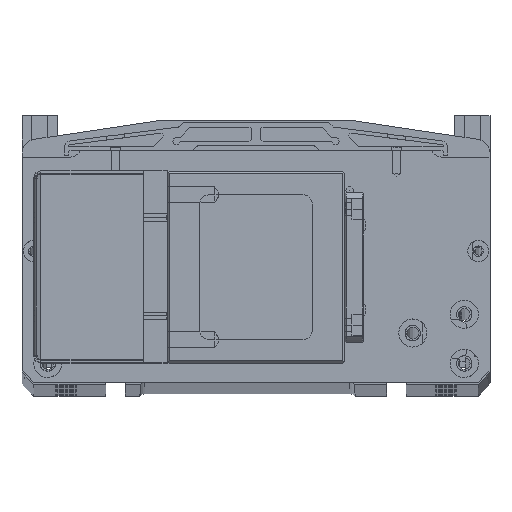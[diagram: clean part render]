
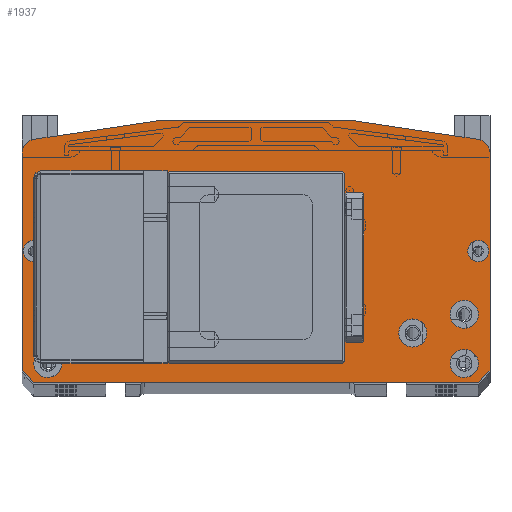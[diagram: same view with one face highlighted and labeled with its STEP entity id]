
A CAD part, top view. The second image highlights one B-rep face of the part: STEP entity #1937.
In plain terms, the highlighted planar face has unit normal (0, 0, 1).
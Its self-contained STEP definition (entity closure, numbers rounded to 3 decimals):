
#1937=ADVANCED_FACE('',(#6673,#6674,#6675,#6676,#6677,#6678,#6679,#6680,
#6681,#6682,#6683,#6684,#6685),#3068,.F.);
#3068=PLANE('',#20916);
#3555=LINE('',#28843,#5114);
#3556=LINE('',#28846,#5115);
#3557=LINE('',#28848,#5116);
#3558=LINE('',#28850,#5117);
#3559=LINE('',#28854,#5118);
#3560=LINE('',#28856,#5119);
#3561=LINE('',#28858,#5120);
#3562=LINE('',#28862,#5121);
#3563=LINE('',#28863,#5122);
#3564=LINE('',#28866,#5123);
#3565=LINE('',#28868,#5124);
#3566=LINE('',#28870,#5125);
#3567=LINE('',#28871,#5126);
#3568=LINE('',#28874,#5127);
#3569=LINE('',#28876,#5128);
#3570=LINE('',#28878,#5129);
#5114=VECTOR('',#23045,1.);
#5115=VECTOR('',#23046,1.);
#5116=VECTOR('',#23047,1.);
#5117=VECTOR('',#23048,1.);
#5118=VECTOR('',#23051,1.);
#5119=VECTOR('',#23052,1.);
#5120=VECTOR('',#23053,1.);
#5121=VECTOR('',#23056,1.);
#5122=VECTOR('',#23057,1.);
#5123=VECTOR('',#23058,1.);
#5124=VECTOR('',#23059,1.);
#5125=VECTOR('',#23060,1.);
#5126=VECTOR('',#23061,1.);
#5127=VECTOR('',#23062,1.);
#5128=VECTOR('',#23063,1.);
#5129=VECTOR('',#23064,1.);
#6673=FACE_BOUND('',#7487,.T.);
#6674=FACE_BOUND('',#7488,.T.);
#6675=FACE_BOUND('',#7489,.T.);
#6676=FACE_BOUND('',#7490,.T.);
#6677=FACE_BOUND('',#7491,.T.);
#6678=FACE_BOUND('',#7492,.T.);
#6679=FACE_BOUND('',#7493,.T.);
#6680=FACE_BOUND('',#7494,.T.);
#6681=FACE_BOUND('',#7495,.T.);
#6682=FACE_BOUND('',#7496,.T.);
#6683=FACE_BOUND('',#7497,.T.);
#6684=FACE_BOUND('',#7498,.T.);
#6685=FACE_BOUND('',#7499,.T.);
#7487=EDGE_LOOP('',(#9078));
#7488=EDGE_LOOP('',(#9079));
#7489=EDGE_LOOP('',(#9080));
#7490=EDGE_LOOP('',(#9081));
#7491=EDGE_LOOP('',(#9082));
#7492=EDGE_LOOP('',(#9083));
#7493=EDGE_LOOP('',(#9084));
#7494=EDGE_LOOP('',(#9085));
#7495=EDGE_LOOP('',(#9086));
#7496=EDGE_LOOP('',(#9087));
#7497=EDGE_LOOP('',(#9088,#9089,#9090,#9091,#9092,#9093,#9094,#9095,#9096,
#9097));
#7498=EDGE_LOOP('',(#9098,#9099,#9100,#9101));
#7499=EDGE_LOOP('',(#9102,#9103,#9104,#9105));
#9078=ORIENTED_EDGE('',*,*,#16976,.T.);
#9079=ORIENTED_EDGE('',*,*,#16977,.T.);
#9080=ORIENTED_EDGE('',*,*,#16978,.T.);
#9081=ORIENTED_EDGE('',*,*,#16979,.T.);
#9082=ORIENTED_EDGE('',*,*,#16980,.T.);
#9083=ORIENTED_EDGE('',*,*,#16981,.T.);
#9084=ORIENTED_EDGE('',*,*,#16982,.T.);
#9085=ORIENTED_EDGE('',*,*,#16983,.T.);
#9086=ORIENTED_EDGE('',*,*,#16984,.T.);
#9087=ORIENTED_EDGE('',*,*,#16985,.T.);
#9088=ORIENTED_EDGE('',*,*,#16986,.F.);
#9089=ORIENTED_EDGE('',*,*,#16987,.T.);
#9090=ORIENTED_EDGE('',*,*,#16988,.F.);
#9091=ORIENTED_EDGE('',*,*,#16989,.T.);
#9092=ORIENTED_EDGE('',*,*,#16990,.F.);
#9093=ORIENTED_EDGE('',*,*,#16991,.F.);
#9094=ORIENTED_EDGE('',*,*,#16992,.T.);
#9095=ORIENTED_EDGE('',*,*,#16993,.F.);
#9096=ORIENTED_EDGE('',*,*,#16994,.F.);
#9097=ORIENTED_EDGE('',*,*,#16995,.T.);
#9098=ORIENTED_EDGE('',*,*,#16996,.T.);
#9099=ORIENTED_EDGE('',*,*,#16997,.T.);
#9100=ORIENTED_EDGE('',*,*,#16998,.T.);
#9101=ORIENTED_EDGE('',*,*,#16999,.T.);
#9102=ORIENTED_EDGE('',*,*,#17000,.F.);
#9103=ORIENTED_EDGE('',*,*,#17001,.F.);
#9104=ORIENTED_EDGE('',*,*,#17002,.T.);
#9105=ORIENTED_EDGE('',*,*,#17003,.T.);
#14952=VERTEX_POINT('',#28824);
#14953=VERTEX_POINT('',#28826);
#14954=VERTEX_POINT('',#28828);
#14955=VERTEX_POINT('',#28830);
#14956=VERTEX_POINT('',#28832);
#14957=VERTEX_POINT('',#28834);
#14958=VERTEX_POINT('',#28836);
#14959=VERTEX_POINT('',#28838);
#14960=VERTEX_POINT('',#28840);
#14961=VERTEX_POINT('',#28842);
#14962=VERTEX_POINT('',#28844);
#14963=VERTEX_POINT('',#28845);
#14964=VERTEX_POINT('',#28847);
#14965=VERTEX_POINT('',#28849);
#14966=VERTEX_POINT('',#28851);
#14967=VERTEX_POINT('',#28853);
#14968=VERTEX_POINT('',#28855);
#14969=VERTEX_POINT('',#28857);
#14970=VERTEX_POINT('',#28859);
#14971=VERTEX_POINT('',#28861);
#14972=VERTEX_POINT('',#28864);
#14973=VERTEX_POINT('',#28865);
#14974=VERTEX_POINT('',#28867);
#14975=VERTEX_POINT('',#28869);
#14976=VERTEX_POINT('',#28872);
#14977=VERTEX_POINT('',#28873);
#14978=VERTEX_POINT('',#28875);
#14979=VERTEX_POINT('',#28877);
#16976=EDGE_CURVE('',#14952,#14952,#19913,.T.);
#16977=EDGE_CURVE('',#14953,#14953,#19914,.T.);
#16978=EDGE_CURVE('',#14954,#14954,#19915,.T.);
#16979=EDGE_CURVE('',#14955,#14955,#19916,.T.);
#16980=EDGE_CURVE('',#14956,#14956,#19917,.T.);
#16981=EDGE_CURVE('',#14957,#14957,#19918,.T.);
#16982=EDGE_CURVE('',#14958,#14958,#19919,.T.);
#16983=EDGE_CURVE('',#14959,#14959,#19920,.T.);
#16984=EDGE_CURVE('',#14960,#14960,#19921,.T.);
#16985=EDGE_CURVE('',#14961,#14961,#19922,.T.);
#16986=EDGE_CURVE('',#14962,#14963,#3555,.T.);
#16987=EDGE_CURVE('',#14962,#14964,#3556,.T.);
#16988=EDGE_CURVE('',#14965,#14964,#3557,.T.);
#16989=EDGE_CURVE('',#14965,#14966,#3558,.T.);
#16990=EDGE_CURVE('',#14967,#14966,#19923,.T.);
#16991=EDGE_CURVE('',#14968,#14967,#3559,.T.);
#16992=EDGE_CURVE('',#14968,#14969,#3560,.T.);
#16993=EDGE_CURVE('',#14970,#14969,#3561,.T.);
#16994=EDGE_CURVE('',#14971,#14970,#19924,.T.);
#16995=EDGE_CURVE('',#14971,#14963,#3562,.T.);
#16996=EDGE_CURVE('',#14972,#14973,#3563,.T.);
#16997=EDGE_CURVE('',#14973,#14974,#3564,.T.);
#16998=EDGE_CURVE('',#14974,#14975,#3565,.T.);
#16999=EDGE_CURVE('',#14975,#14972,#3566,.T.);
#17000=EDGE_CURVE('',#14976,#14977,#3567,.T.);
#17001=EDGE_CURVE('',#14978,#14976,#3568,.T.);
#17002=EDGE_CURVE('',#14978,#14979,#3569,.T.);
#17003=EDGE_CURVE('',#14979,#14977,#3570,.T.);
#19913=CIRCLE('',#20904,1.65);
#19914=CIRCLE('',#20905,1.65);
#19915=CIRCLE('',#20906,4.5);
#19916=CIRCLE('',#20907,4.5);
#19917=CIRCLE('',#20908,6.);
#19918=CIRCLE('',#20909,6.);
#19919=CIRCLE('',#20910,6.);
#19920=CIRCLE('',#20911,6.);
#19921=CIRCLE('',#20912,6.);
#19922=CIRCLE('',#20913,6.);
#19923=CIRCLE('',#20914,6.);
#19924=CIRCLE('',#20915,6.);
#20904=AXIS2_PLACEMENT_3D('',#28823,#23025,#23026);
#20905=AXIS2_PLACEMENT_3D('',#28825,#23027,#23028);
#20906=AXIS2_PLACEMENT_3D('',#28827,#23029,#23030);
#20907=AXIS2_PLACEMENT_3D('',#28829,#23031,#23032);
#20908=AXIS2_PLACEMENT_3D('',#28831,#23033,#23034);
#20909=AXIS2_PLACEMENT_3D('',#28833,#23035,#23036);
#20910=AXIS2_PLACEMENT_3D('',#28835,#23037,#23038);
#20911=AXIS2_PLACEMENT_3D('',#28837,#23039,#23040);
#20912=AXIS2_PLACEMENT_3D('',#28839,#23041,#23042);
#20913=AXIS2_PLACEMENT_3D('',#28841,#23043,#23044);
#20914=AXIS2_PLACEMENT_3D('',#28852,#23049,#23050);
#20915=AXIS2_PLACEMENT_3D('',#28860,#23054,#23055);
#20916=AXIS2_PLACEMENT_3D('',#28879,#23065,#23066);
#23025=DIRECTION('',(0.,0.,-1.));
#23026=DIRECTION('',(1.,0.,0.));
#23027=DIRECTION('',(0.,0.,-1.));
#23028=DIRECTION('',(1.,0.,0.));
#23029=DIRECTION('',(0.,0.,-1.));
#23030=DIRECTION('',(1.,0.,0.));
#23031=DIRECTION('',(0.,0.,-1.));
#23032=DIRECTION('',(1.,0.,0.));
#23033=DIRECTION('',(0.,0.,-1.));
#23034=DIRECTION('',(1.,0.,0.));
#23035=DIRECTION('',(0.,0.,-1.));
#23036=DIRECTION('',(1.,0.,0.));
#23037=DIRECTION('',(0.,0.,-1.));
#23038=DIRECTION('',(1.,0.,0.));
#23039=DIRECTION('',(0.,0.,-1.));
#23040=DIRECTION('',(1.,0.,0.));
#23041=DIRECTION('',(0.,0.,-1.));
#23042=DIRECTION('',(1.,0.,0.));
#23043=DIRECTION('',(0.,0.,-1.));
#23044=DIRECTION('',(1.,0.,0.));
#23045=DIRECTION('',(-0.707,0.707,0.));
#23046=DIRECTION('',(1.,0.,0.));
#23047=DIRECTION('',(-0.707,-0.707,0.));
#23048=DIRECTION('',(0.,1.,0.));
#23049=DIRECTION('',(0.,0.,-1.));
#23050=DIRECTION('',(0.148,0.989,0.));
#23051=DIRECTION('',(0.989,-0.148,0.));
#23052=DIRECTION('',(-1.,0.,0.));
#23053=DIRECTION('',(0.989,0.148,0.));
#23054=DIRECTION('',(0.,0.,-1.));
#23055=DIRECTION('',(-1.,0.,0.));
#23056=DIRECTION('',(0.,-1.,0.));
#23057=DIRECTION('',(0.,1.,0.));
#23058=DIRECTION('',(1.,0.,0.));
#23059=DIRECTION('',(0.,-1.,0.));
#23060=DIRECTION('',(-1.,0.,0.));
#23061=DIRECTION('',(0.,1.,0.));
#23062=DIRECTION('',(1.,0.,0.));
#23063=DIRECTION('',(0.,1.,0.));
#23064=DIRECTION('',(1.,0.,0.));
#23065=DIRECTION('',(0.,0.,-1.));
#23066=DIRECTION('',(-1.,0.,0.));
#28823=CARTESIAN_POINT('',(-42.,33.,463.));
#28824=CARTESIAN_POINT('',(-40.35,33.,463.));
#28825=CARTESIAN_POINT('',(-42.,69.,463.));
#28826=CARTESIAN_POINT('',(-40.35,69.,463.));
#28827=CARTESIAN_POINT('',(-95.,58.,463.));
#28828=CARTESIAN_POINT('',(-90.5,58.,463.));
#28829=CARTESIAN_POINT('',(95.,58.,463.));
#28830=CARTESIAN_POINT('',(99.5,58.,463.));
#28831=CARTESIAN_POINT('',(-67.,23.,463.));
#28832=CARTESIAN_POINT('',(-61.,23.,463.));
#28833=CARTESIAN_POINT('',(67.,23.,463.));
#28834=CARTESIAN_POINT('',(73.,23.,463.));
#28835=CARTESIAN_POINT('',(-89.,31.,463.));
#28836=CARTESIAN_POINT('',(-83.,31.,463.));
#28837=CARTESIAN_POINT('',(89.,31.,463.));
#28838=CARTESIAN_POINT('',(95.,31.,463.));
#28839=CARTESIAN_POINT('',(-89.,10.,463.));
#28840=CARTESIAN_POINT('',(-83.,10.,463.));
#28841=CARTESIAN_POINT('',(89.,10.,463.));
#28842=CARTESIAN_POINT('',(95.,10.,463.));
#28843=CARTESIAN_POINT('',(-95.,2.,463.));
#28844=CARTESIAN_POINT('',(-95.,2.,463.));
#28845=CARTESIAN_POINT('',(-100.,7.,463.));
#28846=CARTESIAN_POINT('',(67.5,2.,463.));
#28847=CARTESIAN_POINT('',(95.,2.,463.));
#28848=CARTESIAN_POINT('',(100.,7.,463.));
#28849=CARTESIAN_POINT('',(100.,7.,463.));
#28850=CARTESIAN_POINT('',(100.,7.,463.));
#28851=CARTESIAN_POINT('',(100.,99.833,463.));
#28852=CARTESIAN_POINT('',(94.,99.833,463.));
#28853=CARTESIAN_POINT('',(94.89,105.766,463.));
#28854=CARTESIAN_POINT('',(40.,114.,463.));
#28855=CARTESIAN_POINT('',(40.,114.,463.));
#28856=CARTESIAN_POINT('',(40.,114.,463.));
#28857=CARTESIAN_POINT('',(-40.,114.,463.));
#28858=CARTESIAN_POINT('',(-94.89,105.766,463.));
#28859=CARTESIAN_POINT('',(-94.89,105.766,463.));
#28860=CARTESIAN_POINT('',(-94.,99.833,463.));
#28861=CARTESIAN_POINT('',(-100.,99.833,463.));
#28862=CARTESIAN_POINT('',(-100.,99.833,463.));
#28863=CARTESIAN_POINT('',(-37.,91.,463.));
#28864=CARTESIAN_POINT('',(-37.,11.,463.));
#28865=CARTESIAN_POINT('',(-37.,91.,463.));
#28866=CARTESIAN_POINT('',(37.,91.,463.));
#28867=CARTESIAN_POINT('',(37.,91.,463.));
#28868=CARTESIAN_POINT('',(37.,11.,463.));
#28869=CARTESIAN_POINT('',(37.,11.,463.));
#28870=CARTESIAN_POINT('',(-37.,11.,463.));
#28871=CARTESIAN_POINT('',(45.5,80.466,463.));
#28872=CARTESIAN_POINT('',(45.5,21.534,463.));
#28873=CARTESIAN_POINT('',(45.5,80.466,463.));
#28874=CARTESIAN_POINT('',(45.5,21.534,463.));
#28875=CARTESIAN_POINT('',(38.5,21.534,463.));
#28876=CARTESIAN_POINT('',(38.5,80.466,463.));
#28877=CARTESIAN_POINT('',(38.5,80.466,463.));
#28878=CARTESIAN_POINT('',(45.5,80.466,463.));
#28879=CARTESIAN_POINT('',(0.,2.,463.));
